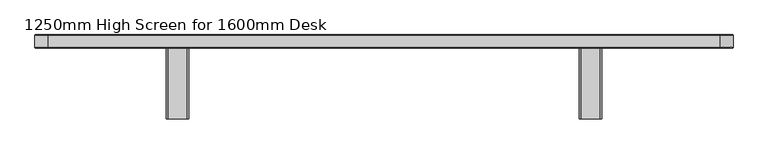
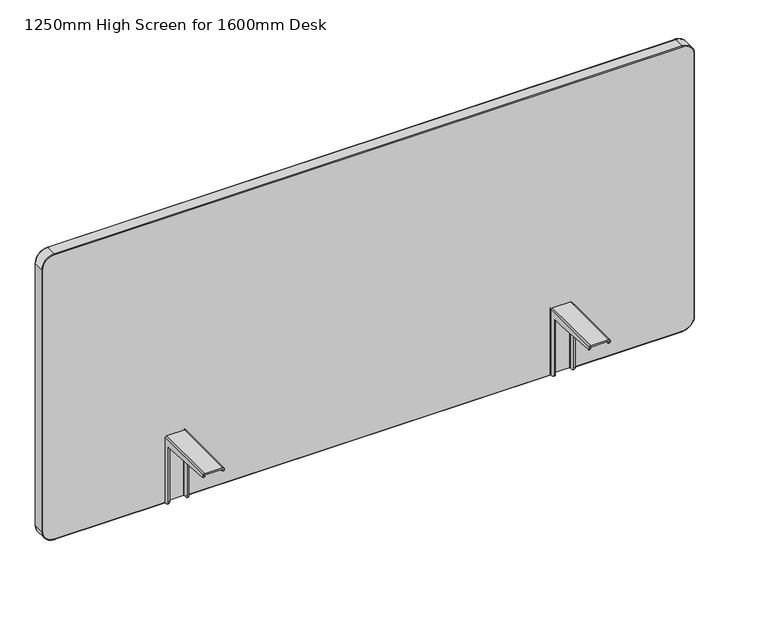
"""IFC4 building model written with IfcOpenShell, lengths in millimetres: furniture geometry, DBLTD_TheSenatorGroup_OffcDsks_Workbase_Single_FabricScreen : 1250mm High Screen for 1600mm Desk."""

from ifc_helpers import new_model, si_unit, point, frame, origin, place, context, project, spatial, polyline, circle_curve, ellipse_curve, trimmed, source, transform, mapped, element, save
from ifc_brep_helpers import plane_surface, cylinder_surface, revolved_surface, advanced_brep


def furniture_1250mm_high_screen_for_1600mm_desk_09735f5d(model_context):
    return source(origin(), model_context, "Body", "AdvancedBrep", [
        advanced_brep(
        [(515.4999924, 810.0117826, 872.0), (518.4999924, 810.0117826, 875.0), (562.4536863, 810.0117826, 875.0), (565.4536863, 810.0117826, 872.0), (565.4536863, 810.0117826, 707.2499354), (830.5, 810.0117826, 707.2499354), (858.5, 810.0117826, 735.2499354), (858.5, 810.0117826, 1399.7499354), (830.5, 810.0117826, 1427.7499354), (-675.5, 810.0117826, 1427.7499354), (-703.5, 810.0117826, 1399.7499354), (-703.5, 810.0117826, 735.2499354), (-675.5, 810.0117826, 707.2499354), (-410.4536863, 810.0117826, 707.2499354), (-410.4536863, 810.0117826, 872.0), (-407.4536863, 810.0117826, 875.0), (-363.4999924, 810.0117826, 875.0), (-360.4999924, 810.0117826, 872.0), (-360.4999924, 810.0117826, 707.2499354), (515.4999924, 810.0117826, 707.2499354), (858.5, 840.0117886, 735.2499354), (830.5, 840.0117886, 707.2499354), (-675.5, 840.0117886, 707.2499354), (-703.5, 840.0117886, 735.2499354), (-703.5, 840.0117886, 1399.7499354), (-675.5, 840.0117886, 1427.7499354), (830.5, 840.0117886, 1427.7499354), (858.5, 840.0117886, 1399.7499354), (830.5, 812.011776, 1429.7499354), (830.5, 838.0117886, 1429.7499354), (-675.5, 838.0117886, 1429.7499354), (-675.5, 812.0117826, 1429.7499354), (-705.5, 838.0117886, 1399.7499354), (-705.5, 812.0117774, 1399.7499354), (-705.5, 838.0117886, 735.2499354), (-705.5, 812.0117826, 735.2499354), (-675.5, 838.0117886, 705.2499354), (-675.5, 812.0117814, 705.2499354), (830.5, 812.0117782, 705.2499354), (830.5, 838.0117886, 705.2499354), (860.5, 838.0117886, 735.2499354), (860.5, 812.0117803, 735.2499354), (860.5, 838.0117886, 1399.7499354), (860.5, 812.0117826, 1399.7499354), (565.4536863, 816.0117817, 705.2499354), (515.4999924, 816.0117817, 705.2499354), (515.4999924, 812.0117826, 705.2499354), (-360.4999924, 812.0117826, 705.2499354), (-360.4999924, 816.0117817, 705.2499354), (-410.4536863, 816.0117817, 705.2499354), (-410.4536863, 812.0117826, 705.2499354), (565.4536863, 812.0117826, 705.2499354), (565.4536863, 816.0117817, 872.0), (562.4536863, 816.0117817, 875.0), (518.4999924, 816.0117817, 875.0), (515.4999924, 816.0117817, 872.0), (-360.4999924, 816.0117817, 872.0), (-363.4999924, 816.0117817, 875.0), (-407.4536863, 816.0117817, 875.0), (-410.4536863, 816.0117817, 872.0)],
        [
            (0, 1, circle_curve(frame((518.4999924, 810.0117826, 872.0), z_axis=(0.0, 1.0, 0.0), x_axis=(-1.0, 0.0, 0.0)), 3.0)),
            (1, 2),
            (2, 3, circle_curve(frame((562.4536863, 810.0117826, 872.0), z_axis=(0.0, 1.0, 0.0), x_axis=(-1.0, 0.0, 0.0)), 3.0)),
            (3, 4),
            (4, 5),
            (5, 6, circle_curve(frame((830.5, 810.0117826, 735.2499354), z_axis=(0.0, -1.0, 0.0), x_axis=(0.0, 0.0, -1.0)), 28.0)),
            (6, 7),
            (7, 8, circle_curve(frame((830.5, 810.0117826, 1399.7499354), z_axis=(0.0, -1.0, 0.0), x_axis=(1.0, 0.0, 0.0)), 28.0)),
            (8, 9),
            (9, 10, circle_curve(frame((-675.5, 810.0117826, 1399.7499354), z_axis=(0.0, -1.0, 0.0), x_axis=(0.0, 0.0, 1.0)), 28.0)),
            (10, 11),
            (11, 12, circle_curve(frame((-675.5, 810.0117826, 735.2499354), z_axis=(0.0, -1.0, 0.0), x_axis=(-1.0, 0.0, 0.0)), 28.0)),
            (12, 13),
            (13, 14),
            (14, 15, circle_curve(frame((-407.4536863, 810.0117826, 872.0), z_axis=(0.0, 1.0, 0.0), x_axis=(1.0, 0.0, 0.0)), 3.0)),
            (15, 16),
            (16, 17, circle_curve(frame((-363.4999924, 810.0117826, 872.0), z_axis=(0.0, 1.0, 0.0), x_axis=(1.0, 0.0, 0.0)), 3.0)),
            (17, 18),
            (18, 19),
            (19, 0),
            (20, 21, circle_curve(frame((830.5, 840.0117886, 735.2499354), z_axis=(0.0, 1.0, 0.0), x_axis=(0.0, 0.0, -1.0)), 28.0)),
            (21, 22),
            (22, 23, circle_curve(frame((-675.5, 840.0117886, 735.2499354), z_axis=(0.0, 1.0, 0.0), x_axis=(-1.0, 0.0, 0.0)), 28.0)),
            (23, 24),
            (24, 25, circle_curve(frame((-675.5, 840.0117886, 1399.7499354), z_axis=(0.0, 1.0, 0.0), x_axis=(0.0, 0.0, 1.0)), 28.0)),
            (25, 26),
            (26, 27, circle_curve(frame((830.5, 840.0117886, 1399.7499354), z_axis=(0.0, 1.0, 0.0), x_axis=(1.0, 0.0, 0.0)), 28.0)),
            (27, 20),
            (28, 29),
            (29, 30),
            (30, 31),
            (31, 28),
            (30, 32, circle_curve(frame((-675.5, 838.0117886, 1399.7499354), z_axis=(0.0, -1.0, 0.0), x_axis=(1.0, 0.0, 0.0)), 30.0)),
            (32, 33),
            (33, 31, circle_curve(frame((-675.5, 812.0117826, 1399.7499354), z_axis=(0.0, 1.0, 0.0), x_axis=(1.0, 0.0, 0.0)), 30.0)),
            (32, 34),
            (34, 35),
            (35, 33),
            (34, 36, circle_curve(frame((-675.5, 838.0117886, 735.2499354), z_axis=(0.0, -1.0, 0.0), x_axis=(1.0, 0.0, 0.0)), 30.0)),
            (36, 37),
            (37, 35, circle_curve(frame((-675.5, 812.0117826, 735.2499354), z_axis=(0.0, 1.0, 0.0), x_axis=(1.0, 0.0, 0.0)), 30.0)),
            (38, 39),
            (39, 40, circle_curve(frame((830.5, 838.0117886, 735.2499354), z_axis=(0.0, -1.0, 0.0), x_axis=(1.0, 0.0, 0.0)), 30.0)),
            (40, 41),
            (41, 38, circle_curve(frame((830.5, 812.0117826, 735.2499354), z_axis=(0.0, 1.0, 0.0), x_axis=(1.0, 0.0, 0.0)), 30.0)),
            (40, 42),
            (42, 43),
            (43, 41),
            (28, 43, circle_curve(frame((830.5, 812.0117826, 1399.7499354), z_axis=(0.0, 1.0, 0.0), x_axis=(1.0, 0.0, 0.0)), 30.0)),
            (42, 29, circle_curve(frame((830.5, 838.0117886, 1399.7499354), z_axis=(0.0, -1.0, 0.0), x_axis=(1.0, 0.0, 0.0)), 30.0)),
            (44, 45),
            (45, 46),
            (46, 47),
            (47, 48),
            (48, 49),
            (49, 50),
            (50, 37),
            (36, 39),
            (38, 51),
            (51, 44),
            (44, 52),
            (52, 53, circle_curve(frame((562.4536863, 816.0117817, 872.0), z_axis=(0.0, -1.0, 0.0), x_axis=(-1.0, 0.0, 0.0)), 3.0)),
            (53, 54),
            (54, 55, circle_curve(frame((518.4999924, 816.0117817, 872.0), z_axis=(0.0, -1.0, 0.0), x_axis=(-1.0, 0.0, 0.0)), 3.0)),
            (55, 45),
            (55, 0),
            (19, 46, circle_curve(frame((515.4999924, 812.0117826, 707.2499354), z_axis=(1.0, 0.0, 0.0), x_axis=(0.0, 1.0, 0.0)), 2.0)),
            (54, 1),
            (53, 2),
            (52, 3),
            (51, 4, circle_curve(frame((565.4536863, 812.0117826, 707.2499354), z_axis=(-1.0, 0.0, 0.0), x_axis=(0.0, 1.0, 0.0)), 2.0)),
            (48, 56),
            (56, 57, circle_curve(frame((-363.4999924, 816.0117817, 872.0), z_axis=(0.0, -1.0, 0.0), x_axis=(1.0, 0.0, 0.0)), 3.0)),
            (57, 58),
            (58, 59, circle_curve(frame((-407.4536863, 816.0117817, 872.0), z_axis=(0.0, -1.0, 0.0), x_axis=(1.0, 0.0, 0.0)), 3.0)),
            (59, 49),
            (47, 18, circle_curve(frame((-360.4999924, 812.0117826, 707.2499354), z_axis=(-1.0, 0.0, 0.0), x_axis=(0.0, 1.0, 0.0)), 2.0)),
            (17, 56),
            (16, 57),
            (15, 58),
            (14, 59),
            (13, 50, circle_curve(frame((-410.4536863, 812.0117826, 707.2499354), z_axis=(1.0, 0.0, 0.0), x_axis=(0.0, 1.0, 0.0)), 2.0)),
            (41, 6, circle_curve(frame((858.5, 812.0117826, 735.2499354), z_axis=(0.0, 0.0, -1.0), x_axis=(0.0, -1.0, 0.0)), 2.0)),
            (5, 38, circle_curve(frame((830.5, 812.0117826, 707.2499354), z_axis=(1.0, 0.0, 0.0), x_axis=(0.0, -1.0, 0.0)), 2.0)),
            (43, 7, circle_curve(frame((858.5, 812.0117826, 1399.7499354), z_axis=(0.0, 0.0, -1.0), x_axis=(0.0, -1.0, 0.0)), 2.0)),
            (28, 8, circle_curve(frame((830.5, 812.0117826, 1427.7499354), z_axis=(1.0, 0.0, 0.0), x_axis=(0.0, -1.0, 0.0)), 2.0)),
            (31, 9, circle_curve(frame((-675.5, 812.0117826, 1427.7499354), z_axis=(1.0, 0.0, 0.0), x_axis=(0.0, -1.0, 0.0)), 2.0)),
            (33, 10, circle_curve(frame((-703.5, 812.0117826, 1399.7499354), z_axis=(0.0, 0.0, 1.0), x_axis=(0.0, -1.0, 0.0)), 2.0)),
            (35, 11, circle_curve(frame((-703.5, 812.0117826, 735.2499354), z_axis=(0.0, 0.0, 1.0), x_axis=(0.0, -1.0, 0.0)), 2.0)),
            (37, 12, circle_curve(frame((-675.5, 812.0117826, 707.2499354), z_axis=(-1.0, 0.0, 0.0), x_axis=(0.0, -1.0, 0.0)), 2.0)),
            (20, 40, circle_curve(frame((858.5, 838.0117886, 735.2499354), z_axis=(0.0, 0.0, -1.0), x_axis=(0.0, -1.0, 0.0)), 2.0)),
            (39, 21, circle_curve(frame((830.5, 838.0117886, 707.2499354), z_axis=(1.0, 0.0, 0.0), x_axis=(0.0, -1.0, 0.0)), 2.0)),
            (27, 42, circle_curve(frame((858.5, 838.0117886, 1399.7499354), z_axis=(0.0, 0.0, -1.0), x_axis=(0.0, -1.0, 0.0)), 2.0)),
            (26, 29, circle_curve(frame((830.5, 838.0117886, 1427.7499354), z_axis=(1.0, 0.0, 0.0), x_axis=(0.0, -1.0, 0.0)), 2.0)),
            (25, 30, circle_curve(frame((-675.5, 838.0117886, 1427.7499354), z_axis=(1.0, 0.0, 0.0), x_axis=(0.0, -1.0, 0.0)), 2.0)),
            (24, 32, circle_curve(frame((-703.5, 838.0117886, 1399.7499354), z_axis=(0.0, 0.0, 1.0), x_axis=(0.0, -1.0, 0.0)), 2.0)),
            (23, 34, circle_curve(frame((-703.5, 838.0117886, 735.2499354), z_axis=(0.0, 0.0, 1.0), x_axis=(0.0, -1.0, 0.0)), 2.0)),
            (22, 36, circle_curve(frame((-675.5, 838.0117886, 707.2499354), z_axis=(-1.0, 0.0, 0.0), x_axis=(0.0, -1.0, 0.0)), 2.0)),
        ],
        [
            plane_surface(frame((-675.5, 810.0117826, 1429.7499354), z_axis=(0.0, -1.0, 0.0), x_axis=(-1.0, 0.0, 0.0))),
            plane_surface(frame((-675.5, 840.0117886, 1429.7499354), z_axis=(0.0, 1.0, 0.0), x_axis=(1.0, 0.0, 0.0))),
            plane_surface(frame((830.5, 810.0117826, 1429.7499354), z_axis=(0.0, 0.0, 1.0), x_axis=(0.0, 1.0, 0.0))),
            cylinder_surface(frame((-675.5, 840.0117886, 1399.7499354), z_axis=(0.0, -1.0, 0.0), x_axis=(1.0, 0.0, 0.0)), 30.0),
            plane_surface(frame((-705.5, 810.0117826, 1399.7499354), z_axis=(-1.0, 0.0, 0.0), x_axis=(0.0, 1.0, 0.0))),
            cylinder_surface(frame((-675.5, 840.0117886, 735.2499354), z_axis=(0.0, -1.0, 0.0), x_axis=(1.0, 0.0, 0.0)), 30.0),
            cylinder_surface(frame((830.5, 840.0117886, 735.2499354), z_axis=(0.0, -1.0, 0.0), x_axis=(1.0, 0.0, 0.0)), 30.0),
            plane_surface(frame((860.5, 810.0117826, 735.2499354), z_axis=(1.0, 0.0, 0.0), x_axis=(0.0, 1.0, 0.0))),
            cylinder_surface(frame((830.5, 840.0117886, 1399.7499354), z_axis=(0.0, -1.0, 0.0), x_axis=(1.0, 0.0, 0.0)), 30.0),
            plane_surface(frame((-675.5, 810.0117826, 705.2499354), z_axis=(0.0, 0.0, -1.0), x_axis=(0.0, 1.0, 0.0))),
            plane_surface(frame((565.4536863, 816.0117817, 872.0), z_axis=(0.0, -1.0, 0.0), x_axis=(0.0, 0.0, -1.0))),
            plane_surface(frame((515.4999924, 810.0117826, 872.0), z_axis=(1.0, 0.0, 0.0), x_axis=(0.0, 1.0, 0.0))),
            revolved_surface(polyline([(515.4999924, 810.0117826, 872.0), (515.4999924, 816.0117817, 872.0)]), (518.4999924, 816.0117817, 872.0), (0.0, -1.0, 0.0)),
            plane_surface(frame((562.4536863, 810.0117826, 875.0), z_axis=(0.0, 0.0, -1.0), x_axis=(0.0, 1.0, 0.0))),
            revolved_surface(polyline([(559.4536863, 810.0117826, 872.0), (559.4536863, 816.0117817, 872.0)]), (562.4536863, 816.0117817, 872.0), (0.0, -1.0, 0.0)),
            plane_surface(frame((565.4536863, 810.0117826, 705.2499354), z_axis=(-1.0, 0.0, 0.0), x_axis=(0.0, 1.0, 0.0))),
            plane_surface(frame((-410.4536863, 816.0117817, 705.2499354), z_axis=(0.0, -1.0, 0.0), x_axis=(-1.0, 0.0, 0.0))),
            plane_surface(frame((-360.4999924, 810.0117826, 705.2499354), z_axis=(-1.0, 0.0, 0.0), x_axis=(0.0, 1.0, 0.0))),
            revolved_surface(polyline([(-360.4999924, 810.0117826, 872.0), (-360.4999924, 816.0117817, 872.0)]), (-363.4999924, 816.0117817, 872.0), (0.0, -1.0, 0.0)),
            plane_surface(frame((-363.4999924, 810.0117826, 875.0), z_axis=(0.0, 0.0, -1.0), x_axis=(0.0, 1.0, 0.0))),
            revolved_surface(polyline([(-404.4536863, 810.0117826, 872.0), (-404.4536863, 816.0117817, 872.0)]), (-407.4536863, 816.0117817, 872.0), (0.0, -1.0, 0.0)),
            plane_surface(frame((-410.4536863, 810.0117826, 872.0), z_axis=(1.0, 0.0, 0.0), x_axis=(0.0, 1.0, 0.0))),
            revolved_surface(trimmed(ellipse_curve(frame((830.5, 812.0117826, 707.2499354), z_axis=(-1.0, 0.0, 0.0), x_axis=(0.0, -1.0, 0.0)), 2.0, 2.0), [point((830.5, 812.0117826, 705.2499354))], [point((830.5, 810.0117826, 707.2499354))], True, "CARTESIAN"), (830.5, 810.0117826, 735.2499354), (0.0, -1.0, 0.0)),
            cylinder_surface(frame((858.5, 812.0117826, 735.2499354), z_axis=(0.0, 0.0, 1.0), x_axis=(0.0, -1.0, 0.0)), 2.0),
            revolved_surface(trimmed(ellipse_curve(frame((858.5, 812.0117826, 1399.7499354), z_axis=(0.0, 0.0, -1.0), x_axis=(0.0, -1.0, 0.0)), 2.0, 2.0), [point((860.5, 812.0117826, 1399.7499354))], [point((858.5, 810.0117826, 1399.7499354))], True, "CARTESIAN"), (830.5, 810.0117826, 1399.7499354), (0.0, -1.0, 0.0)),
            cylinder_surface(frame((830.5, 812.0117826, 1427.7499354), z_axis=(-1.0, 0.0, 0.0), x_axis=(0.0, -1.0, 0.0)), 2.0),
            revolved_surface(trimmed(ellipse_curve(frame((-675.5, 812.0117826, 1427.7499354), z_axis=(1.0, 0.0, 0.0), x_axis=(0.0, -1.0, 0.0)), 2.0, 2.0), [point((-675.5, 812.0117826, 1429.7499354))], [point((-675.5, 810.0117826, 1427.7499354))], True, "CARTESIAN"), (-675.5, 810.0117826, 1399.7499354), (0.0, -1.0, 0.0)),
            cylinder_surface(frame((-703.5, 812.0117826, 1399.7499354), z_axis=(0.0, 0.0, -1.0), x_axis=(0.0, -1.0, 0.0)), 2.0),
            revolved_surface(trimmed(ellipse_curve(frame((-703.5, 812.0117826, 735.2499354), z_axis=(0.0, 0.0, 1.0), x_axis=(0.0, -1.0, 0.0)), 2.0, 2.0), [point((-705.5, 812.0117826, 735.2499354))], [point((-703.5, 810.0117826, 735.2499354))], True, "CARTESIAN"), (-675.5, 810.0117826, 735.2499354), (0.0, -1.0, 0.0)),
            revolved_surface(trimmed(ellipse_curve(frame((830.5, 838.0117886, 707.2499354), z_axis=(-1.0, 0.0, 0.0), x_axis=(0.0, -1.0, 0.0)), 2.0, 2.0), [point((830.5, 840.0117886, 707.2499354))], [point((830.5, 838.0117886, 705.2499354))], True, "CARTESIAN"), (830.5, 810.0117826, 735.2499354), (0.0, -1.0, 0.0)),
            cylinder_surface(frame((858.5, 838.0117886, 735.2499354), z_axis=(0.0, 0.0, 1.0), x_axis=(0.0, -1.0, 0.0)), 2.0),
            revolved_surface(trimmed(ellipse_curve(frame((858.5, 838.0117886, 1399.7499354), z_axis=(0.0, 0.0, -1.0), x_axis=(0.0, -1.0, 0.0)), 2.0, 2.0), [point((858.5, 840.0117886, 1399.7499354))], [point((860.5, 838.0117886, 1399.7499354))], True, "CARTESIAN"), (830.5, 810.0117826, 1399.7499354), (0.0, -1.0, 0.0)),
            cylinder_surface(frame((830.5, 838.0117886, 1427.7499354), z_axis=(-1.0, 0.0, 0.0), x_axis=(0.0, -1.0, 0.0)), 2.0),
            revolved_surface(trimmed(ellipse_curve(frame((-675.5, 838.0117886, 1427.7499354), z_axis=(1.0, 0.0, 0.0), x_axis=(0.0, -1.0, 0.0)), 2.0, 2.0), [point((-675.5, 840.0117886, 1427.7499354))], [point((-675.5, 838.0117886, 1429.7499354))], True, "CARTESIAN"), (-675.5, 810.0117826, 1399.7499354), (0.0, -1.0, 0.0)),
            cylinder_surface(frame((-703.5, 838.0117886, 1399.7499354), z_axis=(0.0, 0.0, -1.0), x_axis=(0.0, -1.0, 0.0)), 2.0),
            revolved_surface(trimmed(ellipse_curve(frame((-703.5, 838.0117886, 735.2499354), z_axis=(0.0, 0.0, 1.0), x_axis=(0.0, -1.0, 0.0)), 2.0, 2.0), [point((-703.5, 840.0117886, 735.2499354))], [point((-705.5, 838.0117886, 735.2499354))], True, "CARTESIAN"), (-675.5, 810.0117826, 735.2499354), (0.0, -1.0, 0.0)),
            cylinder_surface(frame((-675.5, 838.0117886, 707.2499354), z_axis=(-1.0, 0.0, 0.0), x_axis=(0.0, 1.0, 0.0)), 2.0),
            cylinder_surface(frame((0.0, 812.0117826, 707.2499354), z_axis=(-1.0, 0.0, 0.0), x_axis=(0.0, 1.0, 0.0)), 2.0),
        ],
        [
            (0, [[1, 2, 3, 4, 5, 6, 7, 8, 9, 10, 11, 12, 13, 14, 15, 16, 17, 18, 19, 20]]),
            (1, [[21, 22, 23, 24, 25, 26, 27, 28]]),
            (2, [[29, 30, 31, 32]]),
            (3, [[-31, 33, 34, 35]]),
            (4, [[-34, 36, 37, 38]]),
            (5, [[-37, 39, 40, 41]]),
            (6, [[42, 43, 44, 45]]),
            (7, [[-44, 46, 47, 48]]),
            (8, [[-29, 49, -47, 50]]),
            (9, [[51, 52, 53, 54, 55, 56, 57, -40, 58, -42, 59, 60]]),
            (10, [[61, 62, 63, 64, 65, -51]]),
            (11, [[-65, 66, -20, 67, -52]]),
            (12, [[-64, 68, -1, -66]]),
            (13, [[-63, 69, -2, -68]]),
            (14, [[-62, 70, -3, -69]]),
            (15, [[-61, -60, 71, -4, -70]]),
            (16, [[72, 73, 74, 75, 76, -55]]),
            (17, [[-72, -54, 77, -18, 78]]),
            (18, [[-73, -78, -17, 79]]),
            (19, [[-74, -79, -16, 80]]),
            (20, [[-75, -80, -15, 81]]),
            (21, [[-76, -81, -14, 82, -56]]),
            (22, [[83, -6, 84, -45]]),
            (23, [[-83, -48, 85, -7]]),
            (24, [[-85, -49, 86, -8]]),
            (25, [[-86, -32, 87, -9]]),
            (26, [[-87, -35, 88, -10]]),
            (27, [[-88, -38, 89, -11]]),
            (28, [[-89, -41, 90, -12]]),
            (29, [[91, -43, 92, -21]]),
            (30, [[-91, -28, 93, -46]]),
            (31, [[-93, -27, 94, -50]]),
            (32, [[-94, -26, 95, -30]]),
            (33, [[-95, -25, 96, -33]]),
            (34, [[-96, -24, 97, -36]]),
            (35, [[-97, -23, 98, -39]]),
            (36, [[-22, -92, -58, -98]]),
            (37, [[-5, -71, -59, -84]]),
            (37, [[-13, -90, -57, -82]]),
            (37, [[-19, -77, -53, -67]]),
        ],
    ),
        advanced_brep(
        [(562.4536863, 806.1752329, 707.0000005), (565.4536863, 806.1752329, 707.0000005), (565.4536863, 796.1752329, 717.0000005), (562.4536863, 796.1752329, 717.0000005), (515.4999924, 806.1752329, 707.0000005), (518.4999924, 806.1752329, 707.0000005), (518.4999924, 797.3929828, 712.2175238), (515.4999924, 797.3929828, 712.2175238), (518.4999924, 655.6318851, 864.7296798), (515.4999924, 655.6318851, 864.7296798), (515.4999924, 765.1939716, 856.3812011), (518.4999924, 765.1939716, 856.3812011), (565.4536863, 655.6318851, 864.7296798), (562.4536863, 655.6318851, 864.7296798), (562.4536863, 781.1752329, 855.1634512), (565.4536863, 781.1752329, 855.1634512), (518.4999924, 651.0117769, 869.7152271), (515.4999924, 651.0117769, 869.7152271), (565.4536863, 651.0117769, 869.7152271), (562.4536863, 651.0117769, 869.7152271), (518.4999924, 816.0117817, 707.0000005), (562.4536863, 816.0117817, 707.0000005), (565.4536863, 813.0117817, 707.0000005), (562.4536863, 812.0117817, 707.0000005), (561.4536863, 813.0117817, 707.0000005), (519.4999924, 813.0117817, 707.0000005), (518.4999924, 812.0117817, 707.0000005), (515.4999924, 813.0117817, 707.0000005), (515.4999924, 813.0117817, 872.0), (518.4999924, 816.0117817, 875.0), (515.4999924, 797.3929828, 856.3812011), (515.4999924, 651.0117769, 872.0), (518.4999924, 797.3929828, 856.3812011), (518.4999924, 812.0117817, 871.0), (518.4999924, 651.0117769, 871.0), (519.4999924, 813.0117817, 872.0), (561.4536863, 813.0117817, 872.0), (562.4536863, 812.0117817, 871.0), (562.4536863, 796.1752329, 855.1634512), (562.4536863, 651.0117769, 871.0), (565.4536863, 796.1752329, 855.1634512), (565.4536863, 813.0117817, 872.0), (565.4536863, 651.0117769, 872.0), (562.4536863, 816.0117817, 875.0), (518.4999924, 651.0117769, 875.0), (519.4999924, 651.0117769, 872.0), (561.4536863, 651.0117769, 872.0), (562.4536863, 651.0117769, 875.0)],
        [
            (0, 1),
            (1, 2, circle_curve(frame((565.4536863, 806.1752329, 717.0000005), z_axis=(-1.0, 0.0, 0.0), x_axis=(0.0, 1.0, 0.0)), 10.0)),
            (2, 3),
            (3, 0, circle_curve(frame((562.4536863, 806.1752329, 717.0000005), z_axis=(1.0, 0.0, 0.0), x_axis=(0.0, 1.0, 0.0)), 10.0)),
            (4, 5),
            (5, 6, circle_curve(frame((518.4999924, 806.1752329, 717.0000005), z_axis=(-1.0, 0.0, 0.0), x_axis=(0.0, 1.0, 0.0)), 10.0)),
            (6, 7),
            (7, 4, circle_curve(frame((515.4999924, 806.1752329, 717.0000005), z_axis=(1.0, 0.0, 0.0), x_axis=(0.0, 1.0, 0.0)), 10.0)),
            (8, 9),
            (9, 10),
            (10, 11),
            (11, 8),
            (12, 13),
            (13, 14),
            (14, 15),
            (15, 12),
            (8, 16, circle_curve(frame((518.4999924, 656.0117769, 869.7152271), z_axis=(-1.0, 0.0, 0.0), x_axis=(0.0, 1.0, 0.0)), 5.0)),
            (16, 17),
            (17, 9, circle_curve(frame((515.4999924, 656.0117769, 869.7152271), z_axis=(1.0, 0.0, 0.0), x_axis=(0.0, 1.0, 0.0)), 5.0)),
            (12, 18, circle_curve(frame((565.4536863, 656.0117769, 869.7152271), z_axis=(-1.0, 0.0, 0.0), x_axis=(0.0, 1.0, 0.0)), 5.0)),
            (18, 19),
            (19, 13, circle_curve(frame((562.4536863, 656.0117769, 869.7152271), z_axis=(1.0, 0.0, 0.0), x_axis=(0.0, 1.0, 0.0)), 5.0)),
            (20, 21),
            (21, 22, circle_curve(frame((562.4536863, 813.0117817, 707.0000005), z_axis=(0.0, 0.0, -1.0), x_axis=(0.0, 1.0, 0.0)), 3.0)),
            (22, 1),
            (0, 23),
            (23, 24, circle_curve(frame((561.4536863, 812.0117817, 707.0000005), z_axis=(0.0, 0.0, 1.0), x_axis=(0.0, 1.0, 0.0)), 1.0)),
            (24, 25),
            (25, 26, circle_curve(frame((519.4999924, 812.0117817, 707.0000005), z_axis=(0.0, 0.0, 1.0), x_axis=(0.0, 1.0, 0.0)), 1.0)),
            (26, 5),
            (4, 27),
            (27, 20, circle_curve(frame((518.4999924, 813.0117817, 707.0000005), z_axis=(0.0, 0.0, -1.0), x_axis=(0.0, 1.0, 0.0)), 3.0)),
            (27, 28),
            (28, 29, ellipse_curve(frame((518.4999924, 813.0117817, 872.0), z_axis=(0.0, 0.7071067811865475, -0.7071067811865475), x_axis=(0.0, -0.7071067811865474, -0.7071067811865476)), 4.2426407, 3.0)),
            (29, 20),
            (7, 30),
            (30, 10),
            (17, 31),
            (31, 28),
            (32, 30),
            (6, 32),
            (26, 33),
            (33, 34),
            (34, 16),
            (11, 32),
            (25, 35),
            (35, 33, ellipse_curve(frame((519.4999924, 812.0117817, 871.0), z_axis=(0.0, -0.7071067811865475, 0.7071067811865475), x_axis=(0.0, 0.7071067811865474, 0.7071067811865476)), 1.4142136, 1.0)),
            (24, 36),
            (36, 35),
            (23, 37),
            (37, 36, ellipse_curve(frame((561.4536863, 812.0117817, 871.0), z_axis=(0.0, -0.7071067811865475, 0.7071067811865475), x_axis=(0.0, 0.7071067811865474, 0.7071067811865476)), 1.4142136, 1.0)),
            (3, 38),
            (38, 14),
            (19, 39),
            (39, 37),
            (40, 38),
            (2, 40),
            (22, 41),
            (41, 42),
            (42, 18),
            (15, 40),
            (21, 43),
            (43, 41, ellipse_curve(frame((562.4536863, 813.0117817, 872.0), z_axis=(0.0, 0.7071067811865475, -0.7071067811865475), x_axis=(0.0, -0.7071067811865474, -0.7071067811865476)), 4.2426407, 3.0)),
            (29, 43),
            (44, 31, circle_curve(frame((518.4999924, 651.0117769, 872.0), z_axis=(0.0, -1.0, 0.0), x_axis=(0.0, 0.0, 1.0)), 3.0)),
            (34, 45, circle_curve(frame((519.4999924, 651.0117769, 871.0), z_axis=(0.0, 1.0, 0.0), x_axis=(0.0, 0.0, 1.0)), 1.0)),
            (45, 46),
            (46, 39, circle_curve(frame((561.4536863, 651.0117769, 871.0), z_axis=(0.0, 1.0, 0.0), x_axis=(0.0, 0.0, 1.0)), 1.0)),
            (42, 47, circle_curve(frame((562.4536863, 651.0117769, 872.0), z_axis=(0.0, -1.0, 0.0), x_axis=(0.0, 0.0, 1.0)), 3.0)),
            (47, 44),
            (44, 29),
            (35, 45),
            (36, 46),
            (43, 47),
        ],
        [
            cylinder_surface(frame((-740.423954, 806.1752329, 717.0000005), z_axis=(-1.0, 0.0, 0.0), x_axis=(0.0, 1.0, 0.0)), 10.0),
            plane_surface(frame((895.423954, 781.1752329, 855.1634512), z_axis=(0.0, -0.07597835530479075, -0.9971094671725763), x_axis=(-1.0, 0.0, 0.0))),
            cylinder_surface(frame((0.0, 656.0117769, 869.7152271), z_axis=(-1.0, 0.0, 0.0), x_axis=(0.0, 1.0, 0.0)), 5.0),
            plane_surface(frame((155.0, 816.0117817, 707.0000005), z_axis=(0.0, 0.0, -1.0), x_axis=(-1.0, 0.0, 0.0))),
            cylinder_surface(frame((518.4999924, 813.0117817, 707.0000005), z_axis=(0.0, 0.0, -1.0), x_axis=(0.0, 1.0, 0.0)), 3.0),
            plane_surface(frame((515.4999924, 797.3929828, 707.0000005), z_axis=(-1.0, 0.0, 0.0), x_axis=(0.0, 0.0, 1.0))),
            plane_surface(frame((518.4999924, 797.3929828, 707.0000005), z_axis=(0.0, -1.0, 0.0), x_axis=(0.0, 0.0, 1.0))),
            plane_surface(frame((518.4999924, 812.0117817, 707.0000005), z_axis=(1.0, 0.0, 0.0), x_axis=(0.0, 0.0, 1.0))),
            revolved_surface(polyline([(519.4999924, 813.0117817, 872.0000000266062), (519.4999924, 813.0117817, 707.0000005)]), (519.4999924, 812.0117817, 707.0000005), (0.0, 0.0, 1.0)),
            plane_surface(frame((561.4536863, 813.0117817, 707.0000005), z_axis=(0.0, -1.0, 0.0), x_axis=(0.0, 0.0, 1.0))),
            revolved_surface(polyline([(561.4536863, 813.0117817, 872.0000000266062), (561.4536863, 813.0117817, 707.0000005)]), (561.4536863, 812.0117817, 707.0000005), (0.0, 0.0, 1.0)),
            plane_surface(frame((562.4536863, 796.1752329, 707.0000005), z_axis=(-1.0, 0.0, 0.0), x_axis=(0.0, 0.0, 1.0))),
            plane_surface(frame((565.4536863, 796.1752329, 707.0000005), z_axis=(0.0, -1.0, 0.0), x_axis=(0.0, 0.0, 1.0))),
            plane_surface(frame((565.4536863, 813.0117817, 707.0000005), z_axis=(1.0, 0.0, 0.0), x_axis=(0.0, 0.0, 1.0))),
            cylinder_surface(frame((562.4536863, 813.0117817, 707.0000005), z_axis=(0.0, 0.0, -1.0), x_axis=(0.0, 1.0, 0.0)), 3.0),
            plane_surface(frame((518.4999924, 816.0117817, 707.0000005), z_axis=(0.0, 1.0, 0.0), x_axis=(0.0, 0.0, 1.0))),
            plane_surface(frame((155.0, 651.0117769, 875.0), z_axis=(0.0, -1.0, 0.0), x_axis=(-1.0, 0.0, 0.0))),
            cylinder_surface(frame((518.4999924, 816.0117817, 872.0), z_axis=(0.0, 1.0, 0.0), x_axis=(0.0, 0.0, 1.0)), 3.0),
            plane_surface(frame((518.4999924, 797.3929828, 856.3812011), z_axis=(0.0, 0.0, -1.0), x_axis=(0.0, -1.0, 0.0))),
            revolved_surface(polyline([(519.4999924, 651.0117769, 872.0), (519.4999924, 813.0117817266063, 872.0)]), (519.4999924, 816.0117817, 871.0), (0.0, -1.0, 0.0)),
            plane_surface(frame((561.4536863, 813.0117817, 872.0), z_axis=(0.0, 0.0, -1.0), x_axis=(0.0, -1.0, 0.0))),
            revolved_surface(polyline([(561.4536863, 651.0117769, 872.0), (561.4536863, 813.0117817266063, 872.0)]), (561.4536863, 816.0117817, 871.0), (0.0, -1.0, 0.0)),
            plane_surface(frame((565.4536863, 796.1752329, 855.1634512), z_axis=(0.0, 0.0, -1.0), x_axis=(0.0, -1.0, 0.0))),
            cylinder_surface(frame((562.4536863, 816.0117817, 872.0), z_axis=(0.0, 1.0, 0.0), x_axis=(0.0, 0.0, 1.0)), 3.0),
            plane_surface(frame((518.4999924, 816.0117817, 875.0), z_axis=(0.0, 0.0, 1.0), x_axis=(0.0, -1.0, 0.0))),
        ],
        [
            (0, [[1, 2, 3, 4]]),
            (0, [[5, 6, 7, 8]]),
            (1, [[9, 10, 11, 12]]),
            (1, [[13, 14, 15, 16]]),
            (2, [[-9, 17, 18, 19]]),
            (2, [[-13, 20, 21, 22]]),
            (3, [[23, 24, 25, -1, 26, 27, 28, 29, 30, -5, 31, 32]]),
            (4, [[-32, 33, 34, 35]]),
            (5, [[-33, -31, -8, 36, 37, -10, -19, 38, 39]]),
            (6, [[40, -36, -7, 41]]),
            (7, [[42, 43, 44, -17, -12, 45, -41, -6, -30]]),
            (8, [[-29, 46, 47, -42]]),
            (9, [[-28, 48, 49, -46]]),
            (10, [[-27, 50, 51, -48]]),
            (11, [[-50, -26, -4, 52, 53, -14, -22, 54, 55]]),
            (12, [[56, -52, -3, 57]]),
            (13, [[58, 59, 60, -20, -16, 61, -57, -2, -25]]),
            (14, [[-24, 62, 63, -58]]),
            (15, [[-23, -35, 64, -62]]),
            (16, [[65, -38, -18, -44, 66, 67, 68, -54, -21, -60, 69, 70]]),
            (17, [[-34, -39, -65, 71]]),
            (18, [[-40, -45, -11, -37]]),
            (19, [[-43, -47, 72, -66]]),
            (20, [[-49, 73, -67, -72]]),
            (21, [[-51, -55, -68, -73]]),
            (22, [[-56, -61, -15, -53]]),
            (23, [[-59, -63, 74, -69]]),
            (24, [[-64, -71, -70, -74]]),
        ],
    ),
        advanced_brep(
        [(-363.4999924, 816.0117817, 707.0000005), (-360.4999924, 813.0117817, 707.0000005), (-360.4999924, 806.1752329, 707.0000005), (-363.4999924, 806.1752329, 707.0000005), (-363.4999924, 812.0117817, 707.0000005), (-364.4999924, 813.0117817, 707.0000005), (-406.4536863, 813.0117817, 707.0000005), (-407.4536863, 812.0117817, 707.0000005), (-407.4536863, 806.1752329, 707.0000005), (-410.4536863, 806.1752329, 707.0000005), (-410.4536863, 813.0117817, 707.0000005), (-407.4536863, 816.0117817, 707.0000005), (-363.4999924, 816.0117817, 875.0), (-360.4999924, 813.0117817, 872.0), (-360.4999924, 651.0117769, 872.0), (-360.4999924, 651.0117769, 869.7152271), (-360.4999924, 655.6318851, 864.7296798), (-360.4999924, 765.1939716, 856.3812011), (-360.4999924, 797.3929828, 856.3812011), (-360.4999924, 797.3929828, 712.2175238), (-363.4999924, 797.3929828, 856.3812011), (-363.4999924, 797.3929828, 712.2175238), (-363.4999924, 651.0117769, 871.0), (-363.4999924, 812.0117817, 871.0), (-363.4999924, 765.1939716, 856.3812011), (-363.4999924, 655.6318851, 864.7296798), (-363.4999924, 651.0117769, 869.7152271), (-364.4999924, 813.0117817, 872.0), (-406.4536863, 813.0117817, 872.0), (-407.4536863, 812.0117817, 871.0), (-407.4536863, 651.0117769, 871.0), (-407.4536863, 651.0117769, 869.7152271), (-407.4536863, 655.6318851, 864.7296798), (-407.4536863, 781.1752329, 855.1634512), (-407.4536863, 796.1752329, 855.1634512), (-407.4536863, 796.1752329, 717.0000005), (-410.4536863, 796.1752329, 855.1634512), (-410.4536863, 796.1752329, 717.0000005), (-410.4536863, 651.0117769, 872.0), (-410.4536863, 813.0117817, 872.0), (-410.4536863, 781.1752329, 855.1634512), (-410.4536863, 655.6318851, 864.7296798), (-410.4536863, 651.0117769, 869.7152271), (-407.4536863, 816.0117817, 875.0), (-363.4999924, 651.0117769, 875.0), (-407.4536863, 651.0117769, 875.0), (-406.4536863, 651.0117769, 872.0), (-364.4999924, 651.0117769, 872.0)],
        [
            (0, 1, circle_curve(frame((-363.4999924, 813.0117817, 707.0000005), z_axis=(0.0, 0.0, -1.0), x_axis=(0.0, -1.0, 0.0)), 3.0)),
            (1, 2),
            (2, 3),
            (3, 4),
            (4, 5, circle_curve(frame((-364.4999924, 812.0117817, 707.0000005), z_axis=(0.0, 0.0, 1.0), x_axis=(0.0, -1.0, 0.0)), 1.0)),
            (5, 6),
            (6, 7, circle_curve(frame((-406.4536863, 812.0117817, 707.0000005), z_axis=(0.0, 0.0, 1.0), x_axis=(0.0, -1.0, 0.0)), 1.0)),
            (7, 8),
            (8, 9),
            (9, 10),
            (10, 11, circle_curve(frame((-407.4536863, 813.0117817, 707.0000005), z_axis=(0.0, 0.0, -1.0), x_axis=(0.0, -1.0, 0.0)), 3.0)),
            (11, 0),
            (0, 12),
            (12, 13, ellipse_curve(frame((-363.4999924, 813.0117817, 872.0), z_axis=(0.0, 0.7071067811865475, -0.7071067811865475), x_axis=(0.0, -0.7071067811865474, -0.7071067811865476)), 4.2426407, 3.0)),
            (13, 1),
            (13, 14),
            (14, 15),
            (15, 16, circle_curve(frame((-360.4999924, 656.0117769, 869.7152271), z_axis=(1.0, 0.0, 0.0), x_axis=(0.0, 1.0, 0.0)), 5.0)),
            (16, 17),
            (17, 18),
            (18, 19),
            (19, 2, circle_curve(frame((-360.4999924, 806.1752329, 717.0000005), z_axis=(1.0, 0.0, 0.0), x_axis=(0.0, 1.0, 0.0)), 10.0)),
            (18, 20),
            (20, 21),
            (21, 19),
            (22, 23),
            (23, 4),
            (3, 21, circle_curve(frame((-363.4999924, 806.1752329, 717.0000005), z_axis=(-1.0, 0.0, 0.0), x_axis=(0.0, 1.0, 0.0)), 10.0)),
            (20, 24),
            (24, 25),
            (25, 26, circle_curve(frame((-363.4999924, 656.0117769, 869.7152271), z_axis=(-1.0, 0.0, 0.0), x_axis=(0.0, 1.0, 0.0)), 5.0)),
            (26, 22),
            (23, 27, ellipse_curve(frame((-364.4999924, 812.0117817, 871.0), z_axis=(0.0, -0.7071067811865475, 0.7071067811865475), x_axis=(0.0, 0.7071067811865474, 0.7071067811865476)), 1.4142136, 1.0)),
            (27, 5),
            (27, 28),
            (28, 6),
            (28, 29, ellipse_curve(frame((-406.4536863, 812.0117817, 871.0), z_axis=(0.0, -0.7071067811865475, 0.7071067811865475), x_axis=(0.0, 0.7071067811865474, 0.7071067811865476)), 1.4142136, 1.0)),
            (29, 7),
            (29, 30),
            (30, 31),
            (31, 32, circle_curve(frame((-407.4536863, 656.0117769, 869.7152271), z_axis=(1.0, 0.0, 0.0), x_axis=(0.0, 1.0, 0.0)), 5.0)),
            (32, 33),
            (33, 34),
            (34, 35),
            (35, 8, circle_curve(frame((-407.4536863, 806.1752329, 717.0000005), z_axis=(1.0, 0.0, 0.0), x_axis=(0.0, 1.0, 0.0)), 10.0)),
            (34, 36),
            (36, 37),
            (37, 35),
            (38, 39),
            (39, 10),
            (9, 37, circle_curve(frame((-410.4536863, 806.1752329, 717.0000005), z_axis=(-1.0, 0.0, 0.0), x_axis=(0.0, 1.0, 0.0)), 10.0)),
            (36, 40),
            (40, 41),
            (41, 42, circle_curve(frame((-410.4536863, 656.0117769, 869.7152271), z_axis=(-1.0, 0.0, 0.0), x_axis=(0.0, 1.0, 0.0)), 5.0)),
            (42, 38),
            (39, 43, ellipse_curve(frame((-407.4536863, 813.0117817, 872.0), z_axis=(0.0, 0.7071067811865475, -0.7071067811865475), x_axis=(0.0, -0.7071067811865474, -0.7071067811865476)), 4.2426407, 3.0)),
            (43, 11),
            (43, 12),
            (44, 45),
            (45, 38, circle_curve(frame((-407.4536863, 651.0117769, 872.0), z_axis=(0.0, -1.0, 0.0), x_axis=(0.0, 0.0, -1.0)), 3.0)),
            (42, 31),
            (30, 46, circle_curve(frame((-406.4536863, 651.0117769, 871.0), z_axis=(0.0, 1.0, 0.0), x_axis=(0.0, 0.0, -1.0)), 1.0)),
            (46, 47),
            (47, 22, circle_curve(frame((-364.4999924, 651.0117769, 871.0), z_axis=(0.0, 1.0, 0.0), x_axis=(0.0, 0.0, -1.0)), 1.0)),
            (26, 15),
            (14, 44, circle_curve(frame((-363.4999924, 651.0117769, 872.0), z_axis=(0.0, -1.0, 0.0), x_axis=(0.0, 0.0, -1.0)), 3.0)),
            (12, 44),
            (17, 24),
            (47, 27),
            (46, 28),
            (33, 40),
            (45, 43),
            (16, 25),
            (32, 41),
        ],
        [
            plane_surface(frame((0.0, 816.0117817, 707.0000005), z_axis=(0.0, 0.0, -1.0), x_axis=(1.0, 0.0, 0.0))),
            cylinder_surface(frame((-363.4999924, 813.0117817, 707.0000005), z_axis=(0.0, 0.0, -1.0), x_axis=(0.0, -1.0, 0.0)), 3.0),
            plane_surface(frame((-360.4999924, 813.0117817, 707.0000005), z_axis=(1.0, 0.0, 0.0), x_axis=(0.0, 0.0, 1.0))),
            plane_surface(frame((-360.4999924, 797.3929828, 707.0000005), z_axis=(0.0, -1.0, 0.0), x_axis=(0.0, 0.0, 1.0))),
            plane_surface(frame((-363.4999924, 797.3929828, 707.0000005), z_axis=(-1.0, 0.0, 0.0), x_axis=(0.0, 0.0, 1.0))),
            revolved_surface(polyline([(-364.4999924, 811.0117817, 872.0000000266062), (-364.4999924, 811.0117817, 707.0000005)]), (-364.4999924, 812.0117817, 707.0000005), (0.0, 0.0, 1.0)),
            plane_surface(frame((-364.4999924, 813.0117817, 707.0000005), z_axis=(0.0, -1.0, 0.0), x_axis=(0.0, 0.0, 1.0))),
            revolved_surface(polyline([(-406.4536863, 811.0117817, 872.0000000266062), (-406.4536863, 811.0117817, 707.0000005)]), (-406.4536863, 812.0117817, 707.0000005), (0.0, 0.0, 1.0)),
            plane_surface(frame((-407.4536863, 812.0117817, 707.0000005), z_axis=(1.0, 0.0, 0.0), x_axis=(0.0, 0.0, 1.0))),
            plane_surface(frame((-407.4536863, 796.1752329, 707.0000005), z_axis=(0.0, -1.0, 0.0), x_axis=(0.0, 0.0, 1.0))),
            plane_surface(frame((-410.4536863, 796.1752329, 707.0000005), z_axis=(-1.0, 0.0, 0.0), x_axis=(0.0, 0.0, 1.0))),
            cylinder_surface(frame((-407.4536863, 813.0117817, 707.0000005), z_axis=(0.0, 0.0, -1.0), x_axis=(0.0, -1.0, 0.0)), 3.0),
            plane_surface(frame((-407.4536863, 816.0117817, 707.0000005), z_axis=(0.0, 1.0, 0.0), x_axis=(0.0, 0.0, 1.0))),
            plane_surface(frame((0.0, 651.0117769, 875.0), z_axis=(0.0, -1.0, 0.0), x_axis=(1.0, 0.0, 0.0))),
            cylinder_surface(frame((-363.4999924, 816.0117817, 872.0), z_axis=(0.0, 1.0, 0.0), x_axis=(0.0, 0.0, -1.0)), 3.0),
            plane_surface(frame((-360.4999924, 797.3929828, 856.3812011), z_axis=(0.0, 0.0, -1.0), x_axis=(0.0, -1.0, 0.0))),
            revolved_surface(polyline([(-364.4999924, 651.0117769, 870.0), (-364.4999924, 813.0117817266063, 870.0)]), (-364.4999924, 816.0117817, 871.0), (0.0, -1.0, 0.0)),
            plane_surface(frame((-364.4999924, 813.0117817, 872.0), z_axis=(0.0, 0.0, -1.0), x_axis=(0.0, -1.0, 0.0))),
            revolved_surface(polyline([(-406.4536863, 651.0117769, 870.0), (-406.4536863, 813.0117817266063, 870.0)]), (-406.4536863, 816.0117817, 871.0), (0.0, -1.0, 0.0)),
            plane_surface(frame((-407.4536863, 796.1752329, 855.1634512), z_axis=(0.0, 0.0, -1.0), x_axis=(0.0, -1.0, 0.0))),
            cylinder_surface(frame((-407.4536863, 816.0117817, 872.0), z_axis=(0.0, 1.0, 0.0), x_axis=(0.0, 0.0, -1.0)), 3.0),
            plane_surface(frame((-407.4536863, 816.0117817, 875.0), z_axis=(0.0, 0.0, 1.0), x_axis=(0.0, -1.0, 0.0))),
            cylinder_surface(frame((-740.423954, 806.1752329, 717.0000005), z_axis=(-1.0, 0.0, 0.0), x_axis=(0.0, 1.0, 0.0)), 10.0),
            plane_surface(frame((895.423954, 781.1752329, 855.1634512), z_axis=(0.0, -0.07597835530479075, -0.9971094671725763), x_axis=(-1.0, 0.0, 0.0))),
            cylinder_surface(frame((0.0, 656.0117769, 869.7152271), z_axis=(-1.0, 0.0, 0.0), x_axis=(0.0, 1.0, 0.0)), 5.0),
        ],
        [
            (0, [[1, 2, 3, 4, 5, 6, 7, 8, 9, 10, 11, 12]]),
            (1, [[-1, 13, 14, 15]]),
            (2, [[-15, 16, 17, 18, 19, 20, 21, 22, -2]]),
            (3, [[23, 24, 25, -21]]),
            (4, [[26, 27, -4, 28, -24, 29, 30, 31, 32]]),
            (5, [[-5, -27, 33, 34]]),
            (6, [[-6, -34, 35, 36]]),
            (7, [[-7, -36, 37, 38]]),
            (8, [[-38, 39, 40, 41, 42, 43, 44, 45, -8]]),
            (9, [[46, 47, 48, -44]]),
            (10, [[49, 50, -10, 51, -47, 52, 53, 54, 55]]),
            (11, [[-11, -50, 56, 57]]),
            (12, [[-12, -57, 58, -13]]),
            (13, [[59, 60, -55, 61, -40, 62, 63, 64, -32, 65, -17, 66]]),
            (14, [[-14, 67, -66, -16]]),
            (15, [[-23, -20, 68, -29]]),
            (16, [[-26, -64, 69, -33]]),
            (17, [[-35, -69, -63, 70]]),
            (18, [[-37, -70, -62, -39]]),
            (19, [[-46, -43, 71, -52]]),
            (20, [[-49, -60, 72, -56]]),
            (21, [[-58, -72, -59, -67]]),
            (22, [[-3, -22, -25, -28]]),
            (22, [[-9, -45, -48, -51]]),
            (23, [[73, -30, -68, -19]]),
            (23, [[74, -53, -71, -42]]),
            (24, [[-73, -18, -65, -31]]),
            (24, [[-74, -41, -61, -54]]),
        ],
    ),
    ])


if __name__ == "__main__":
    model = new_model("IFC4")
    model_context = context("Model", 3, world=origin())
    ifc_project = project(units=[si_unit("LENGTHUNIT", "METRE", prefix="MILLI")], contexts=[model_context])
    site = spatial("IfcSite", under=ifc_project)
    building = spatial("IfcBuilding", under=site)
    placement = place(None, origin())
    furniture_1250mm_high_screen_for_1600mm_desk_shape = furniture_1250mm_high_screen_for_1600mm_desk_09735f5d(model_context)
    element("IfcFurniture", 1, ObjectType="DBLTD_TheSenatorGroup_OffcDsks_Workbase_Single_FabricScreen : 1250mm High Screen for 1600mm Desk", at=placement, inside=building, context=model_context, shape_type="MappedRepresentation", body=[
        mapped(furniture_1250mm_high_screen_for_1600mm_desk_shape, transform((0.0, 0.0, 0.0), x_axis=(1.0, 0.0, 0.0), y_axis=(0.0, 1.0, 0.0), z_axis=(0.0, 0.0, 1.0))),
    ])
    save(model, "model.ifc")
